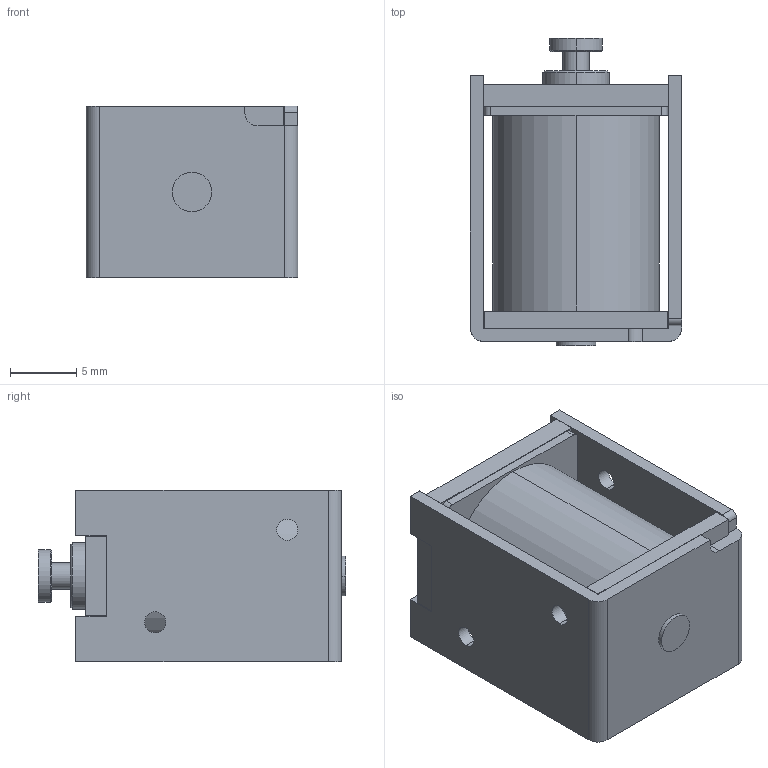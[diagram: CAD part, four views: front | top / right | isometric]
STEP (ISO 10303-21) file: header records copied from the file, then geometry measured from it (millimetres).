
FILE_DESCRIPTION (( 'STEP AP203' ), '1' );
FILE_NAME ('w_ca0520.STEP', '2014-07-07T04:27:34', ( 'jiba' ), ( 'Hewlett-Packard Company' ), 'SwSTEP 2.0', 'SolidWorks 2014', '' );
FILE_SCHEMA (( 'CONFIG_CONTROL_DESIGN' ));
Length unit declared in the file: millimetre
Products named in the file (3): Part2^w_ca0520; w_20520036A; w_ca0520
Assembly tree (2 placements, depth 2):
  w_ca0520
    Part2^w_ca0520
    w_20520036A
Bounding box: 16 x 23.23 x 13 mm (x, y, z)
Volume: 3194.5 mm3; surface area: 2897 mm2
Topology: 2 solids, 2 shells, 105 faces, 284 edges, 182 vertices
Faces by surface type: plane 57, cylinder 44, cone 4
Entity records: 3647 total; most frequent: DIRECTION 604, CARTESIAN_POINT 576, ORIENTED_EDGE 568, EDGE_CURVE 284, AXIS2_PLACEMENT_3D 210, LINE 184, VECTOR 184, VERTEX_POINT 182
